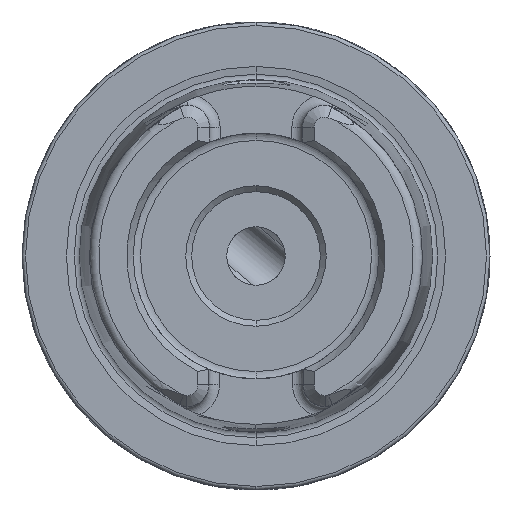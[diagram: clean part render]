
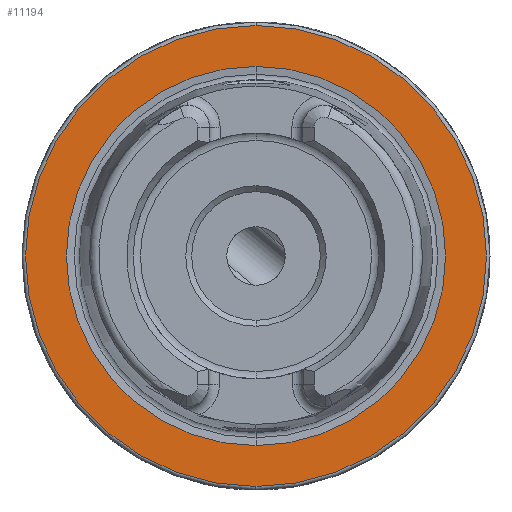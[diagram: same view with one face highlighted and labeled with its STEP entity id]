
A CAD part, left-side view. The second image highlights one B-rep face of the part: STEP entity #11194.
In plain terms, the highlighted planar face has unit normal (-1, 0, 0).
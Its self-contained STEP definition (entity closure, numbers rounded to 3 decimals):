
#458 = AXIS2_PLACEMENT_3D ( 'NONE', #12465, #2120, #4869 ) ;
#498 = FACE_OUTER_BOUND ( 'NONE', #7915, .T. ) ;
#972 = DIRECTION ( 'NONE',  ( 0., 0., 1. ) ) ;
#1757 = CIRCLE ( 'NONE', #4806, 19.7 ) ;
#1953 = VERTEX_POINT ( 'NONE', #13242 ) ;
#2120 = DIRECTION ( 'NONE',  ( 1., 0., 0. ) ) ;
#2466 = AXIS2_PLACEMENT_3D ( 'NONE', #12741, #14229, #972 ) ;
#2796 = EDGE_CURVE ( 'NONE', #13981, #5203, #10805, .T. ) ;
#3358 = ORIENTED_EDGE ( 'NONE', *, *, #6878, .T. ) ;
#3814 = CARTESIAN_POINT ( 'NONE',  ( 0., 0., 19.7 ) ) ;
#4204 = AXIS2_PLACEMENT_3D ( 'NONE', #17792, #4578, #10326 ) ;
#4578 = DIRECTION ( 'NONE',  ( -1., 0., 0. ) ) ;
#4806 = AXIS2_PLACEMENT_3D ( 'NONE', #13230, #16193, #17667 ) ;
#4869 = DIRECTION ( 'NONE',  ( 0., 0., -1. ) ) ;
#5203 = VERTEX_POINT ( 'NONE', #17992 ) ;
#6260 = CIRCLE ( 'NONE', #2466, 16.207 ) ;
#6878 = EDGE_CURVE ( 'NONE', #5203, #13981, #1757, .T. ) ;
#7915 = EDGE_LOOP ( 'NONE', ( #13125, #3358 ) ) ;
#7970 = ORIENTED_EDGE ( 'NONE', *, *, #8723, .F. ) ;
#8005 = EDGE_CURVE ( 'NONE', #8896, #1953, #17368, .T. ) ;
#8423 = DIRECTION ( 'NONE',  ( -1., 0., 0. ) ) ;
#8723 = EDGE_CURVE ( 'NONE', #1953, #8896, #6260, .T. ) ;
#8896 = VERTEX_POINT ( 'NONE', #16088 ) ;
#9291 = PLANE ( 'NONE',  #458 ) ;
#10326 = DIRECTION ( 'NONE',  ( 0., 0., 1. ) ) ;
#10730 = AXIS2_PLACEMENT_3D ( 'NONE', #14291, #8423, #17010 ) ;
#10805 = CIRCLE ( 'NONE', #10730, 19.7 ) ;
#11194 = ADVANCED_FACE ( 'NONE', ( #17275, #498 ), #9291, .F. ) ;
#11837 = EDGE_LOOP ( 'NONE', ( #7970, #14851 ) ) ;
#12465 = CARTESIAN_POINT ( 'NONE',  ( 0., 19.7, 0. ) ) ;
#12741 = CARTESIAN_POINT ( 'NONE',  ( 0., 0., 0. ) ) ;
#13125 = ORIENTED_EDGE ( 'NONE', *, *, #2796, .T. ) ;
#13230 = CARTESIAN_POINT ( 'NONE',  ( 0., 0., 0. ) ) ;
#13242 = CARTESIAN_POINT ( 'NONE',  ( 0., 0., 16.207 ) ) ;
#13981 = VERTEX_POINT ( 'NONE', #3814 ) ;
#14229 = DIRECTION ( 'NONE',  ( -1., 0., 0. ) ) ;
#14291 = CARTESIAN_POINT ( 'NONE',  ( 0., 0., 0. ) ) ;
#14851 = ORIENTED_EDGE ( 'NONE', *, *, #8005, .F. ) ;
#16088 = CARTESIAN_POINT ( 'NONE',  ( 0., 0., -16.207 ) ) ;
#16193 = DIRECTION ( 'NONE',  ( -1., 0., 0. ) ) ;
#17010 = DIRECTION ( 'NONE',  ( 0., 0., 1. ) ) ;
#17275 = FACE_BOUND ( 'NONE', #11837, .T. ) ;
#17368 = CIRCLE ( 'NONE', #4204, 16.207 ) ;
#17667 = DIRECTION ( 'NONE',  ( 0., 0., 1. ) ) ;
#17792 = CARTESIAN_POINT ( 'NONE',  ( 0., 0., 0. ) ) ;
#17992 = CARTESIAN_POINT ( 'NONE',  ( 0., 0., -19.7 ) ) ;
